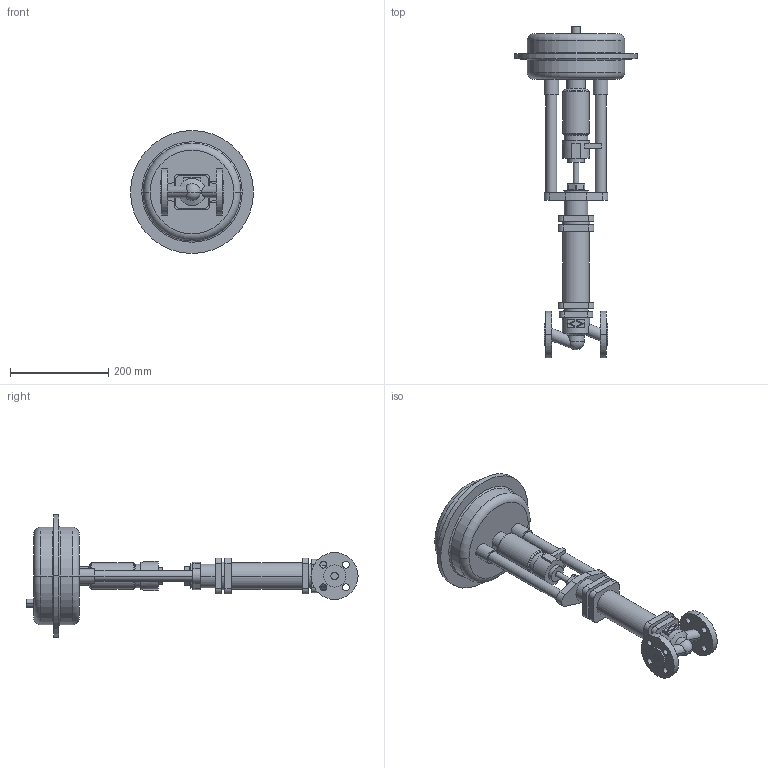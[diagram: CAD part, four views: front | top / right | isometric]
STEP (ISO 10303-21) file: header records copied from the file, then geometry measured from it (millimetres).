
FILE_DESCRIPTION(('OneSpaceDesigner STEP Export'),'2;1');
FILE_NAME('c000000373.stp','2005-12-12T10:36:31',(''),(''),'OneSpace Designer STEP processor for AP203 (Solid Model)','OneSpace Designer 13.20A 18-Aug-2005 (C) CoCreate Software GmbH','');
FILE_SCHEMA(('CONFIG_CONTROL_DESIGN'));
Length unit declared in the file: millimetre
Products named in the file (1): 1
Bounding box: 250 x 674.5 x 250 mm (x, y, z)
Volume: 4637868.3 mm3; surface area: 350898.6 mm2
Topology: 1 solids, 1 shells, 215 faces, 530 edges, 346 vertices
Faces by surface type: cylinder 102, plane 89, torus 16, cone 6, sphere 2
Entity records: 5969 total; most frequent: CARTESIAN_POINT 1109, ORIENTED_EDGE 1056, DIRECTION 912, EDGE_CURVE 528, VERTEX_POINT 346, AXIS2_PLACEMENT_3D 326, EDGE_LOOP 266, VECTOR 260
